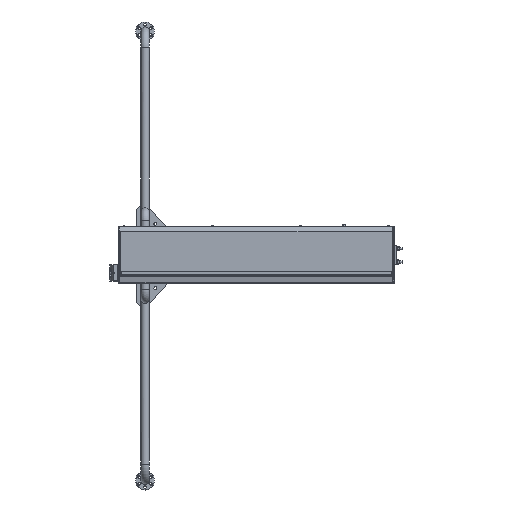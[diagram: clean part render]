
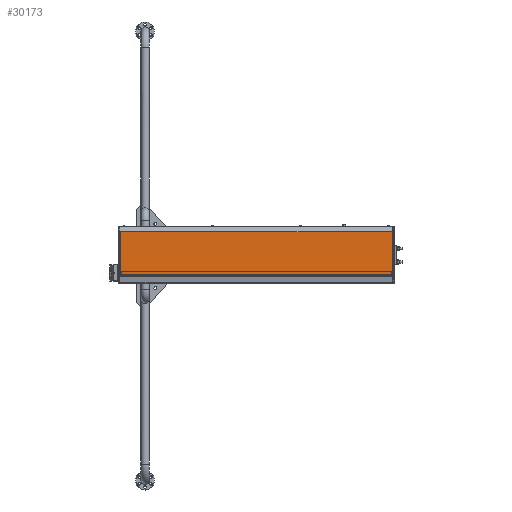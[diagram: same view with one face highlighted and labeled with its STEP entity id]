
A CAD part, top view. The second image highlights one B-rep face of the part: STEP entity #30173.
In plain terms, the highlighted planar face has unit normal (0, 0, 1) as drawn and (0, 1, 0) by its records, which use the part's own axes.
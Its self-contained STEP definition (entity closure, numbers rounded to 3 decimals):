
#2266=LINE('',#49400,#4802);
#2267=LINE('',#49404,#4803);
#2272=LINE('',#49416,#4808);
#2273=LINE('',#49418,#4809);
#2282=LINE('',#49435,#4818);
#2283=LINE('',#49437,#4819);
#2284=LINE('',#49439,#4820);
#2285=LINE('',#49440,#4821);
#4802=VECTOR('',#39506,1000.);
#4803=VECTOR('',#39511,1000.);
#4808=VECTOR('',#39524,1000.);
#4809=VECTOR('',#39527,1000.);
#4818=VECTOR('',#39542,1000.);
#4819=VECTOR('',#39545,1000.);
#4820=VECTOR('',#39546,1000.);
#4821=VECTOR('',#39547,1000.);
#8207=ORIENTED_EDGE('',*,*,#16102,.F.);
#8208=ORIENTED_EDGE('',*,*,#16103,.T.);
#8209=ORIENTED_EDGE('',*,*,#16104,.F.);
#8210=ORIENTED_EDGE('',*,*,#16086,.T.);
#8211=ORIENTED_EDGE('',*,*,#16092,.F.);
#8212=ORIENTED_EDGE('',*,*,#16105,.T.);
#8213=ORIENTED_EDGE('',*,*,#16093,.F.);
#8214=ORIENTED_EDGE('',*,*,#16084,.T.);
#16084=EDGE_CURVE('',#20191,#20195,#2266,.T.);
#16086=EDGE_CURVE('',#20193,#20190,#2267,.T.);
#16092=EDGE_CURVE('',#20198,#20190,#2272,.T.);
#16093=EDGE_CURVE('',#20191,#20199,#2273,.T.);
#16102=EDGE_CURVE('',#20203,#20195,#2282,.T.);
#16103=EDGE_CURVE('',#20203,#20204,#2283,.T.);
#16104=EDGE_CURVE('',#20193,#20204,#2284,.T.);
#16105=EDGE_CURVE('',#20198,#20199,#2285,.T.);
#20190=VERTEX_POINT('',#49382);
#20191=VERTEX_POINT('',#49386);
#20193=VERTEX_POINT('',#49395);
#20195=VERTEX_POINT('',#49401);
#20198=VERTEX_POINT('',#49415);
#20199=VERTEX_POINT('',#49419);
#20203=VERTEX_POINT('',#49434);
#20204=VERTEX_POINT('',#49438);
#24481=EDGE_LOOP('',(#8207,#8208,#8209,#8210,#8211,#8212,#8213,#8214));
#26952=FACE_BOUND('',#24481,.T.);
#28947=PLANE('',#35427);
#30173=ADVANCED_FACE('',(#26952),#28947,.F.);
#35427=AXIS2_PLACEMENT_3D('',#49436,#39543,#39544);
#39506=DIRECTION('',(0.,0.,1.));
#39511=DIRECTION('',(0.,0.,-1.));
#39524=DIRECTION('',(0.,0.,1.));
#39527=DIRECTION('',(0.,0.,-1.));
#39542=DIRECTION('',(0.,0.,-1.));
#39543=DIRECTION('',(0.,-1.,0.));
#39544=DIRECTION('',(0.,0.,-1.));
#39545=DIRECTION('',(1.,0.,0.));
#39546=DIRECTION('',(0.,0.,1.));
#39547=DIRECTION('',(-1.,0.,0.));
#49382=CARTESIAN_POINT('',(722.15,114.688,-257.128));
#49386=CARTESIAN_POINT('',(-722.15,114.688,-257.128));
#49395=CARTESIAN_POINT('',(722.15,114.688,-28.511));
#49400=CARTESIAN_POINT('',(-722.15,114.688,-257.128));
#49401=CARTESIAN_POINT('',(-722.15,114.688,-28.511));
#49404=CARTESIAN_POINT('',(722.15,114.688,-28.511));
#49415=CARTESIAN_POINT('',(722.15,114.688,-257.13));
#49416=CARTESIAN_POINT('',(722.15,114.688,-28.511));
#49418=CARTESIAN_POINT('',(-722.15,114.688,-257.128));
#49419=CARTESIAN_POINT('',(-722.15,114.688,-257.13));
#49434=CARTESIAN_POINT('',(-722.15,114.688,-28.509));
#49435=CARTESIAN_POINT('',(-722.15,114.688,-257.128));
#49436=CARTESIAN_POINT('',(724.15,114.688,-27.726));
#49437=CARTESIAN_POINT('',(-724.15,114.688,-28.509));
#49438=CARTESIAN_POINT('',(722.15,114.688,-28.509));
#49439=CARTESIAN_POINT('',(722.15,114.688,-28.511));
#49440=CARTESIAN_POINT('',(724.15,114.688,-257.13));
